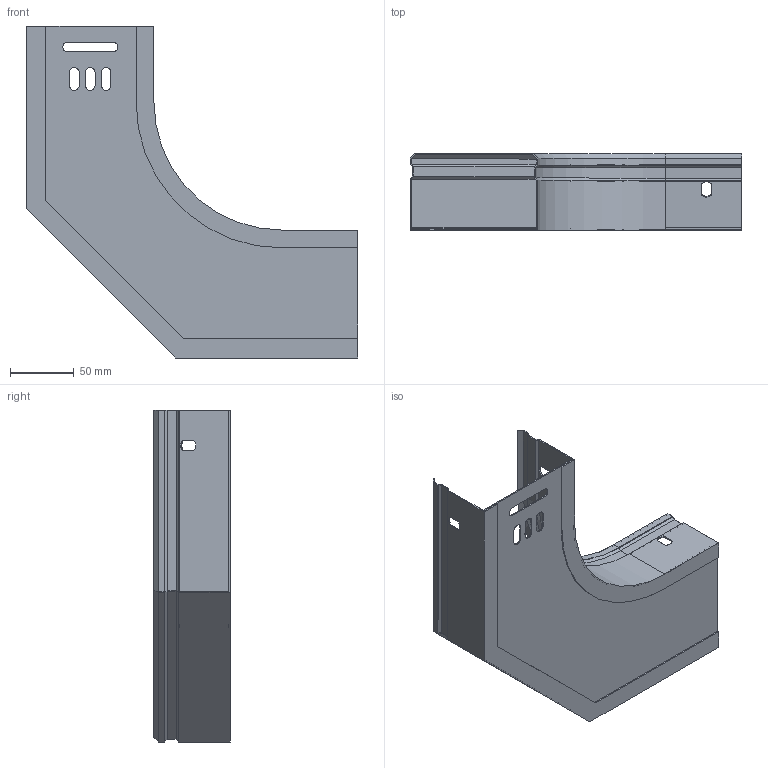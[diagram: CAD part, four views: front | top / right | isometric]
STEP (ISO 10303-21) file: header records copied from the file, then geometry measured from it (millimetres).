
FILE_DESCRIPTION (( 'STEP AP203' ), '1' );
FILE_NAME ('ERE_CPERC 100x60.step', '2023-07-27T18:47:43', ( '' ), ( '' ), 'SwSTEP 2.0', 'SolidWorks 2022', '' );
FILE_SCHEMA (( 'CONFIG_CONTROL_DESIGN' ));
Length unit declared in the file: millimetre
Products named in the file (4): ERE_LATERAL EXT CP_100 x 60; ERE_LATERAL INT CP_60; ERE_CPERC 100x60; ERE_BASE CP_100
Assembly tree (3 placements, depth 2):
  ERE_CPERC 100x60
    ERE_BASE CP_100
    ERE_LATERAL INT CP_60
    ERE_LATERAL EXT CP_100 x 60
Bounding box: 260.38 x 60 x 260.38 mm (x, y, z)
Volume: 90925.6 mm3; surface area: 184904.9 mm2
Topology: 3 solids, 3 shells, 135 faces, 339 edges, 210 vertices
Faces by surface type: plane 103, cylinder 25, cone 7
Entity records: 4387 total; most frequent: CARTESIAN_POINT 690, ORIENTED_EDGE 678, DIRECTION 673, EDGE_CURVE 339, LINE 287, VECTOR 287, VERTEX_POINT 210, AXIS2_PLACEMENT_3D 193
